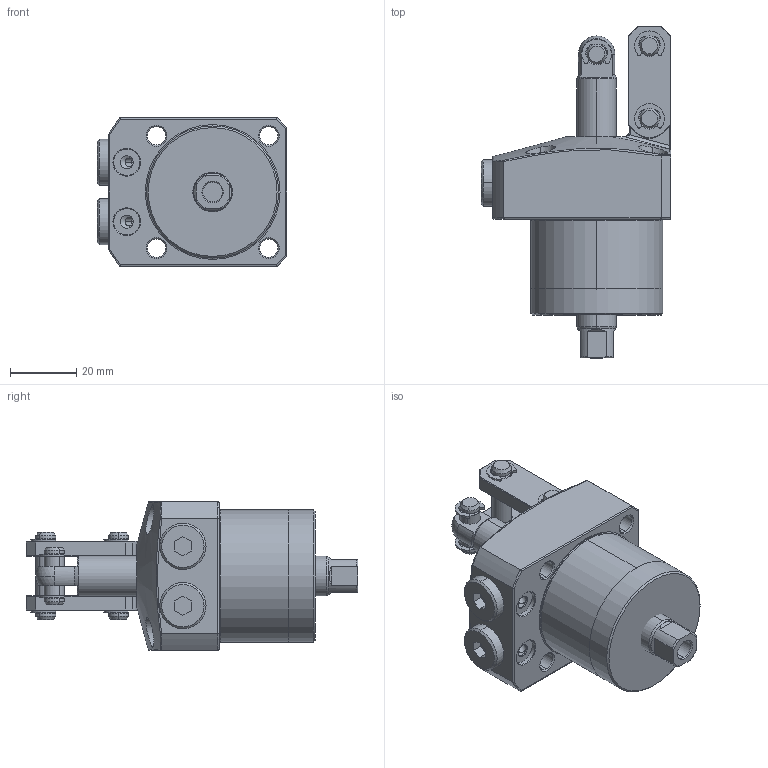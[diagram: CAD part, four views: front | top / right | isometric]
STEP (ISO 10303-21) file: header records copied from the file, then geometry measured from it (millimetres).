
FILE_DESCRIPTION(/* description */ (''),/* implementation_level */ '2;1');
FILE_NAME(/* name */ 'KTPC40-FD.stp',/* time_stamp */ '2022-11-18T16:17:51+08:00',/* author */ (''),/* organization */ (''),/* preprocessor_version */ 'ST-DEVELOPER v16.7',/* originating_system */ 'SIEMENS PLM Software NX 12.0',/* authorisation */ '');
FILE_SCHEMA (('AP203_CONFIGURATION_CONTROLLED_3D_DESIGN_OF_MECHANICAL_PARTS_AND_ASSEMBLIES_MIM_LF { 1 0 10303 403 2 1 2}'));
Length unit declared in the file: millimetre
Products named in the file (9): KTPC40-FD-03; KTPC40-FD-06; KTPC40-FD-04; KTPC40-FD-02; KTPC40-FD-07; KTPC40-FD-01; KTPC40-FD-05; KTPC40-FD-08; LKA0400-CCD_step
Assembly tree (16 placements, depth 2):
  LKA0400-CCD_step
    KTPC40-FD-08
    KTPC40-FD-05  x2
    KTPC40-FD-01
    KTPC40-FD-07  x6
    KTPC40-FD-02
    KTPC40-FD-04  x2
    KTPC40-FD-06  x2
    KTPC40-FD-03
Bounding box: 57.5 x 100.5 x 45 mm (x, y, z)
Volume: 126156.9 mm3; surface area: 29611.8 mm2
Topology: 16 solids, 16 shells, 588 faces, 1418 edges, 885 vertices
Faces by surface type: cylinder 244, plane 185, cone 76, torus 64, bspline 17, sphere 2
Full cylindrical faces by diameter (mm): 40 x1
Entity records: 12379 total; most frequent: CARTESIAN_POINT 3114, DIRECTION 1750, ORIENTED_EDGE 1624, EDGE_CURVE 812, AXIS2_PLACEMENT_3D 713, VERTEX_POINT 499, EDGE_LOOP 393, CIRCLE 362
